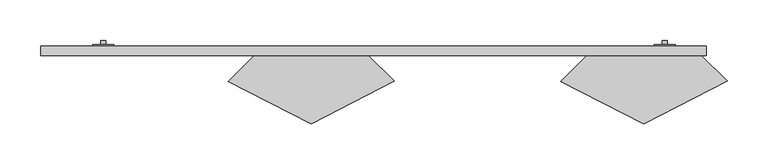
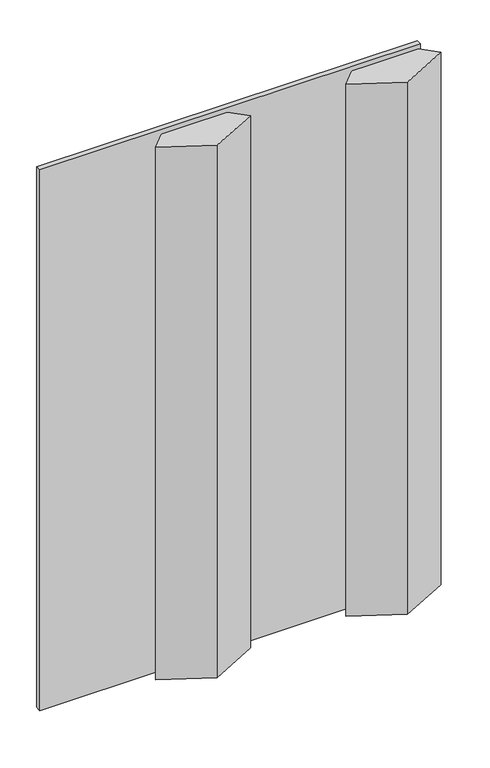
"""IFC4 building model written with IfcOpenShell, lengths in millimetres: proxy geometry, Arktura-SoundForm-Peak-RFA : Arktura-SoundForm-Peak-RFA."""

from ifc_helpers import new_model, si_unit, point, frame, frame_2d, origin, origin_with_axes, place, context, project, spatial, polyline, circle_curve, trimmed, segment, composite_curve, outline, extrude, source, transform, mapped, element, save


def generic_models_f1303ad9(model_context):
    return source(origin(), model_context, "Body", "SweptSolid", [
        extrude(outline(polyline([(558.8, -31.75), (533.4, -31.75), (533.4, -30.3215536), (558.8, -30.3215536), (558.8, -31.75)])), frame((0.0, 0.0, 1133.475), z_axis=(0.0, 0.0, 1.0), x_axis=(1.0, 0.0, 0.0)), (0.0, 0.0, 1.0), 25.4),
        extrude(outline(composite_curve([segment(trimmed(circle_curve(frame_2d((1146.175, 546.1)), 3.175), [point((1146.175, 542.925))], [point((1146.175, 549.275))], False, "CARTESIAN"), True, "CONTINUOUS"), segment(trimmed(circle_curve(frame_2d((1146.175, 546.1)), 3.175), [point((1146.175, 549.275))], [point((1146.175, 542.925))], False, "CARTESIAN"), True, "CONTINUOUS")], self_intersect=False)), frame((0.0, -30.3215536, 0.0), z_axis=(0.0, 1.0, 0.0), x_axis=(0.0, 0.0, 1.0)), (0.0, 0.0, 1.0), 4.9215536),
        extrude(outline(polyline([(-127.0, -31.75), (-152.4, -31.75), (-152.4, -30.3215536), (-127.0, -30.3215536), (-127.0, -31.75)])), frame((0.0, 0.0, 1133.475), z_axis=(0.0, 0.0, 1.0), x_axis=(1.0, 0.0, 0.0)), (0.0, 0.0, 1.0), 25.4),
        extrude(outline(composite_curve([segment(trimmed(circle_curve(frame_2d((1146.175, -139.7)), 3.175), [point((1146.175, -142.875))], [point((1146.175, -136.525))], False, "CARTESIAN"), True, "CONTINUOUS"), segment(trimmed(circle_curve(frame_2d((1146.175, -139.7)), 3.175), [point((1146.175, -136.525))], [point((1146.175, -142.875))], False, "CARTESIAN"), True, "CONTINUOUS")], self_intersect=False)), frame((0.0, -30.3215536, 0.0), z_axis=(0.0, 1.0, 0.0), x_axis=(0.0, 0.0, 1.0)), (0.0, 0.0, 1.0), 4.9215536),
        extrude(outline(polyline([(558.8, -31.75), (533.4, -31.75), (533.4, -30.3215536), (558.8, -30.3215536), (558.8, -31.75)])), frame((0.0, 0.0, 60.325), z_axis=(0.0, 0.0, 1.0), x_axis=(1.0, 0.0, 0.0)), (0.0, 0.0, 1.0), 25.4),
        extrude(outline(composite_curve([segment(trimmed(circle_curve(frame_2d((73.025, 546.1)), 3.175), [point((73.025, 542.925))], [point((73.025, 549.275))], False, "CARTESIAN"), True, "CONTINUOUS"), segment(trimmed(circle_curve(frame_2d((73.025, 546.1)), 3.175), [point((73.025, 549.275))], [point((73.025, 542.925))], False, "CARTESIAN"), True, "CONTINUOUS")], self_intersect=False)), frame((0.0, -30.3215536, 0.0), z_axis=(0.0, 1.0, 0.0), x_axis=(0.0, 0.0, 1.0)), (0.0, 0.0, 1.0), 4.9215536),
        extrude(outline(polyline([(-127.0, -31.75), (-152.4, -31.75), (-152.4, -30.3215536), (-127.0, -30.3215536), (-127.0, -31.75)])), frame((0.0, 0.0, 60.325), z_axis=(0.0, 0.0, 1.0), x_axis=(1.0, 0.0, 0.0)), (0.0, 0.0, 1.0), 25.4),
        extrude(outline(composite_curve([segment(trimmed(circle_curve(frame_2d((73.025, -139.7)), 3.175), [point((73.025, -142.875))], [point((73.025, -136.525))], False, "CARTESIAN"), True, "CONTINUOUS"), segment(trimmed(circle_curve(frame_2d((73.025, -139.7)), 3.175), [point((73.025, -136.525))], [point((73.025, -142.875))], False, "CARTESIAN"), True, "CONTINUOUS")], self_intersect=False)), frame((0.0, -30.3215536, 0.0), z_axis=(0.0, 1.0, 0.0), x_axis=(0.0, 0.0, 1.0)), (0.0, 0.0, 1.0), 4.9215536),
        extrude(outline(polyline([(-215.9, -43.749976), (-215.9, -31.75), (596.9, -31.75), (596.9, -43.749976), (-215.9, -43.749976)])), origin_with_axes(), (0.0, 0.0, 1.0), 1219.2),
        extrude(outline(polyline([(501.65, -43.7499999), (590.5500179, -43.7499999), (622.3, -74.9283805), (520.7, -127.0), (419.1, -75.499982), (450.8499821, -43.7499999), (501.65, -43.7499999)])), frame((0.0, 0.0, 9.525), z_axis=(0.0, 0.0, 1.0), x_axis=(1.0, 0.0, 0.0)), (0.0, 0.0, 1.0), 1200.15),
        extrude(outline(polyline([(95.25, -43.7499999), (184.1500179, -43.7499999), (215.9, -74.9283805), (114.3, -127.0), (12.7, -75.499982), (44.4499821, -43.7499999), (95.25, -43.7499999)])), frame((0.0, 0.0, 9.525), z_axis=(0.0, 0.0, 1.0), x_axis=(1.0, 0.0, 0.0)), (0.0, 0.0, 1.0), 1200.15),
    ])


if __name__ == "__main__":
    model = new_model("IFC4")
    model_context = context("Model", 3, world=origin())
    ifc_project = project(units=[si_unit("LENGTHUNIT", "METRE", prefix="MILLI")], contexts=[model_context])
    site = spatial("IfcSite", under=ifc_project)
    building = spatial("IfcBuilding", under=site)
    placement = place(None, origin())
    generic_models_shape = generic_models_f1303ad9(model_context)
    element("IfcBuildingElementProxy", 1, Name="Arktura-SoundForm-Peak-RFA : Arktura-SoundForm-Peak-RFA", ObjectType="Arktura-SoundForm-Peak-RFA : Arktura-SoundForm-Peak-RFA", at=placement, inside=building, context=model_context, shape_type="MappedRepresentation", body=[
        mapped(generic_models_shape, transform((0.0, 0.0, 0.0), x_axis=(1.0, 0.0, 0.0), y_axis=(0.0, 1.0, 0.0), z_axis=(0.0, 0.0, 1.0))),
    ])
    save(model, "model.ifc")
